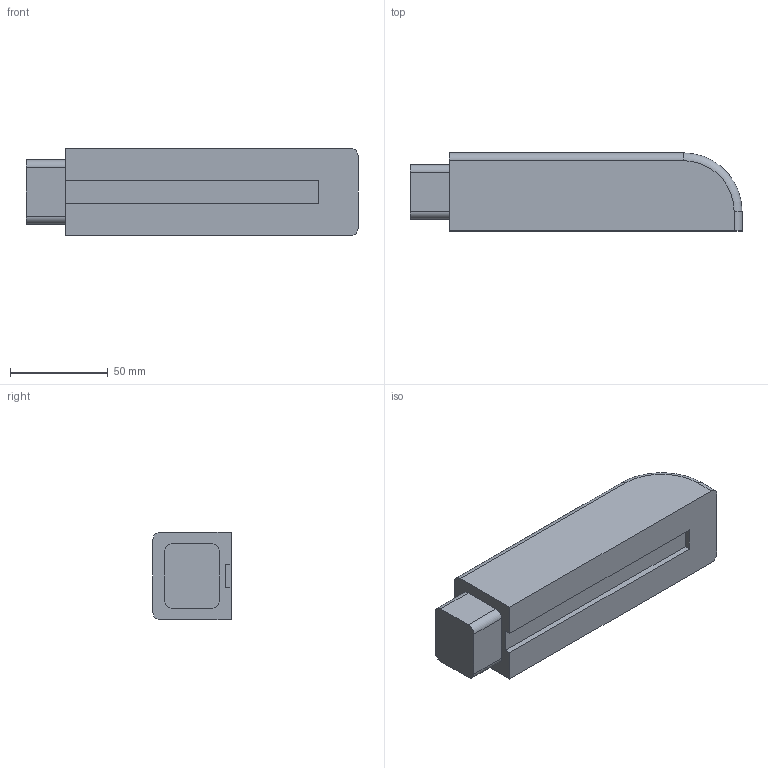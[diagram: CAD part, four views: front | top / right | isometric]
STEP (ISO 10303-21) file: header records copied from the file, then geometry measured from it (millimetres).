
FILE_DESCRIPTION (( 'STEP AP203' ), '1' );
FILE_NAME ('STL-Stab waagerecht2.STEP', '2020-10-10T10:07:06', ( '' ), ( '' ), 'SwSTEP 2.0', 'SolidWorks 2018', '' );
FILE_SCHEMA (( 'CONFIG_CONTROL_DESIGN' ));
Length unit declared in the file: millimetre
Products named in the file (1): STL-Stab waagerecht2
Bounding box: 170 x 40 x 45 mm (x, y, z)
Volume: 273627.2 mm3; surface area: 30591.5 mm2
Topology: 1 solids, 1 shells, 26 faces, 65 edges, 42 vertices
Faces by surface type: plane 15, cylinder 9, torus 2
Entity records: 854 total; most frequent: DIRECTION 139, CARTESIAN_POINT 134, ORIENTED_EDGE 130, EDGE_CURVE 65, AXIS2_PLACEMENT_3D 47, VECTOR 45, LINE 45, VERTEX_POINT 42
